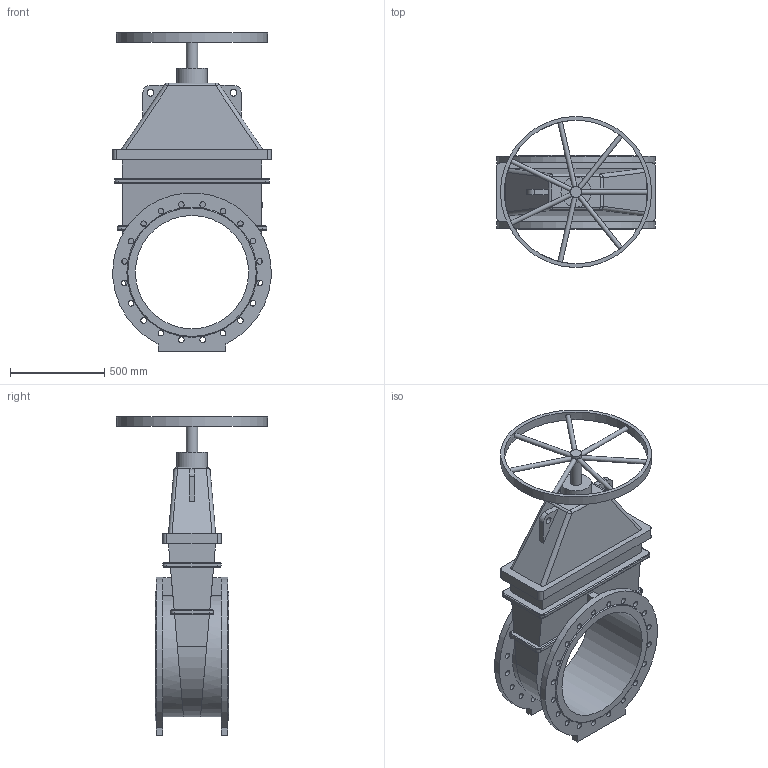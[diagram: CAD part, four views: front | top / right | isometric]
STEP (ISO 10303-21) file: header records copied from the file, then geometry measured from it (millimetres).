
FILE_DESCRIPTION(('STEP AP203'), '1');
FILE_NAME('Çàäâèæêà 47GV DN600 PN10_L390_W800 ñ ìàõîâèêîì', '', ('UNSPECIFIED'), ('UNSPECIFIED'), 'ASCON STEP Converter 1.6', 'ASCON Math Kernel', '');
FILE_SCHEMA(('CONFIG_CONTROL_DESIGN'));
Length unit declared in the file: millimetre
Bounding box: 840 x 800 x 1689 mm (x, y, z)
Volume: 157051383.1 mm3; surface area: 5022831.1 mm2
Topology: 1 solids, 1 shells, 219 faces, 557 edges, 356 vertices
Faces by surface type: cylinder 108, plane 85, bspline 16, torus 8, cone 2
Full cylindrical faces by diameter (mm): 25 x7, 30 x40, 36 x2, 60 x1, 160 x1, 600 x1, 760 x1, 800 x1
Entity records: 11355 total; most frequent: CARTESIAN_POINT 4339, DIRECTION 1042, ORIENTED_EDGE 1000, EDGE_CURVE 500, AXIS2_PLACEMENT_3D 402, EDGE_LOOP 392, VERTEX_POINT 356, FACE_BOUND 281
